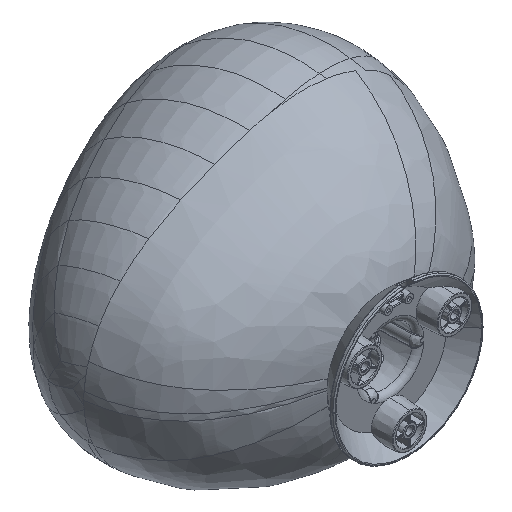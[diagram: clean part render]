
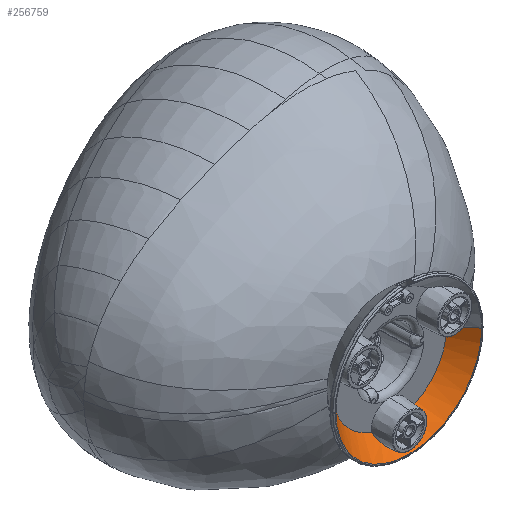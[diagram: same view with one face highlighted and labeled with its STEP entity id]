
A CAD part, isometric view. The second image highlights one B-rep face of the part: STEP entity #256759.
In plain terms, the highlighted conical face has half-angle 40.049 degrees and reference radius 63.239 mm.
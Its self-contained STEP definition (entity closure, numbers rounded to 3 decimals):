
#332 = DIRECTION ( 'NONE',  ( 1., 0., 0. ) ) ;
#465 = CARTESIAN_POINT ( 'NONE',  ( 0., 15.5, 0. ) ) ;
#6809 = AXIS2_PLACEMENT_3D ( 'NONE', #465, #143356, #387798 ) ;
#16500 = ORIENTED_EDGE ( 'NONE', *, *, #37343, .F. ) ;
#20714 = CARTESIAN_POINT ( 'NONE',  ( 0., -1., 0. ) ) ;
#22156 = CARTESIAN_POINT ( 'NONE',  ( -11.129, 6.4, -55.924 ) ) ;
#23276 = EDGE_CURVE ( 'NONE', #256121, #226187, #269764, .T. ) ;
#30754 = CARTESIAN_POINT ( 'NONE',  ( 12.136, 7.317, -54.929 ) ) ;
#37343 = EDGE_CURVE ( 'NONE', #124641, #178456, #313287, .T. ) ;
#57589 = CARTESIAN_POINT ( 'NONE',  ( -63.239, -1., 0. ) ) ;
#72731 = CARTESIAN_POINT ( 'NONE',  ( -63.239, -1., 0. ) ) ;
#72965 = DIRECTION ( 'NONE',  ( 0., -1., 0. ) ) ;
#74127 = ORIENTED_EDGE ( 'NONE', *, *, #23276, .T. ) ;
#86785 = CARTESIAN_POINT ( 'NONE',  ( -5.472, 3.301, -59.374 ) ) ;
#89901 = DIRECTION ( 'NONE',  ( 0., 1., 0. ) ) ;
#95868 = CARTESIAN_POINT ( 'NONE',  ( -16.139, 15.5, -46.657 ) ) ;
#99457 = CARTESIAN_POINT ( 'NONE',  ( -49.37, 15.5, 0. ) ) ;
#101800 = DIRECTION ( 'NONE',  ( 0., 1., 0. ) ) ;
#102199 = CARTESIAN_POINT ( 'NONE',  ( 5.471, 3.301, -59.374 ) ) ;
#105820 = VERTEX_POINT ( 'NONE', #381912 ) ;
#109225 = EDGE_CURVE ( 'NONE', #119316, #256121, #134768, .T. ) ;
#116927 = CARTESIAN_POINT ( 'NONE',  ( -16.139, 15.5, -46.657 ) ) ;
#119316 = VERTEX_POINT ( 'NONE', #116927 ) ;
#119404 = CARTESIAN_POINT ( 'NONE',  ( 0., 2.48, -60.313 ) ) ;
#121373 = CARTESIAN_POINT ( 'NONE',  ( -9.616, 5.259, -57.177 ) ) ;
#121548 = ORIENTED_EDGE ( 'NONE', *, *, #196139, .T. ) ;
#123646 = CARTESIAN_POINT ( 'NONE',  ( -3.898, 2.886, -59.848 ) ) ;
#124641 = VERTEX_POINT ( 'NONE', #119404 ) ;
#126001 = CARTESIAN_POINT ( 'NONE',  ( 8.346, 4.503, -58.018 ) ) ;
#128186 = CARTESIAN_POINT ( 'NONE',  ( -1.144, 2.507, -60.283 ) ) ;
#132816 = CARTESIAN_POINT ( 'NONE',  ( 63.239, -1., 0. ) ) ;
#134768 = CIRCLE ( 'NONE', #392536, 49.37 ) ;
#135000 = CARTESIAN_POINT ( 'NONE',  ( -0.568, 2.48, -60.313 ) ) ;
#136798 = CARTESIAN_POINT ( 'NONE',  ( 8.78, 4.744, -57.749 ) ) ;
#138140 = DIRECTION ( 'NONE',  ( -0.643, -0.765, 0. ) ) ;
#139073 = CARTESIAN_POINT ( 'NONE',  ( 15.303, 12.319, -49.745 ) ) ;
#143356 = DIRECTION ( 'NONE',  ( 0., 1., 0. ) ) ;
#153972 = EDGE_LOOP ( 'NONE', ( #281734, #121548, #16500, #244554, #177960, #74127, #154621 ) ) ;
#154621 = ORIENTED_EDGE ( 'NONE', *, *, #337604, .F. ) ;
#155963 = CARTESIAN_POINT ( 'NONE',  ( -13.768, 9.373, -52.754 ) ) ;
#158317 = CARTESIAN_POINT ( 'NONE',  ( 7.435, 4.053, -58.523 ) ) ;
#162786 = CARTESIAN_POINT ( 'NONE',  ( -2.266, 2.61, -60.164 ) ) ;
#162866 = CARTESIAN_POINT ( 'NONE',  ( 10.765, 6.097, -56.254 ) ) ;
#171389 = CARTESIAN_POINT ( 'NONE',  ( 12.727, 7.969, -54.231 ) ) ;
#177960 = ORIENTED_EDGE ( 'NONE', *, *, #109225, .T. ) ;
#178456 = VERTEX_POINT ( 'NONE', #298354 ) ;
#179026 = DIRECTION ( 'NONE',  ( -1., 0., 0. ) ) ;
#192842 = CARTESIAN_POINT ( 'NONE',  ( -14.425, 10.456, -51.633 ) ) ;
#192923 = CARTESIAN_POINT ( 'NONE',  ( 6.957, 3.844, -58.759 ) ) ;
#195131 = CARTESIAN_POINT ( 'NONE',  ( -10.018, 5.533, -56.873 ) ) ;
#195204 = CARTESIAN_POINT ( 'NONE',  ( 13.752, 9.349, -52.779 ) ) ;
#195219 = DIRECTION ( 'NONE',  ( 0.643, -0.765, 0. ) ) ;
#196139 = EDGE_CURVE ( 'NONE', #105820, #178456, #345501, .T. ) ;
#199725 = CARTESIAN_POINT ( 'NONE',  ( 11.125, 6.396, -55.928 ) ) ;
#208279 = CARTESIAN_POINT ( 'NONE',  ( 0., 2.48, -60.313 ) ) ;
#209226 = AXIS2_PLACEMENT_3D ( 'NONE', #20714, #89901, #373475 ) ;
#226187 = VERTEX_POINT ( 'NONE', #72731 ) ;
#229841 = CARTESIAN_POINT ( 'NONE',  ( 5.976, 3.468, -59.184 ) ) ;
#229856 = LINE ( 'NONE', #132816, #235079 ) ;
#234369 = CARTESIAN_POINT ( 'NONE',  ( 2.247, 2.582, -60.196 ) ) ;
#235079 = VECTOR ( 'NONE', #195219, 1000. ) ;
#236568 = CARTESIAN_POINT ( 'NONE',  ( -15.865, 13.863, -48.208 ) ) ;
#244554 = ORIENTED_EDGE ( 'NONE', *, *, #318407, .F. ) ;
#247062 = CARTESIAN_POINT ( 'NONE',  ( 0., 15.5, 0. ) ) ;
#256121 = VERTEX_POINT ( 'NONE', #99457 ) ;
#256759 = ADVANCED_FACE ( 'NONE', ( #388870 ), #397750, .F. ) ;
#257899 = AXIS2_PLACEMENT_3D ( 'NONE', #455780, #72965, #179026 ) ;
#262099 = CARTESIAN_POINT ( 'NONE',  ( -8.363, 4.487, -58.034 ) ) ;
#264319 = CARTESIAN_POINT ( 'NONE',  ( 63.239, -1., 0. ) ) ;
#264371 = CARTESIAN_POINT ( 'NONE',  ( -5.987, 3.472, -59.18 ) ) ;
#264451 = CARTESIAN_POINT ( 'NONE',  ( 4.432, 3.009, -59.707 ) ) ;
#266728 = CARTESIAN_POINT ( 'NONE',  ( 14.204, 10.068, -52.032 ) ) ;
#268154 = VERTEX_POINT ( 'NONE', #264319 ) ;
#269764 = LINE ( 'NONE', #57589, #286638 ) ;
#270145 = EDGE_CURVE ( 'NONE', #105820, #268154, #229856, .T. ) ;
#277506 = CARTESIAN_POINT ( 'NONE',  ( 15.809, 13.883, -48.205 ) ) ;
#279784 = CARTESIAN_POINT ( 'NONE',  ( 1.132, 2.48, -60.313 ) ) ;
#281734 = ORIENTED_EDGE ( 'NONE', *, *, #270145, .F. ) ;
#286638 = VECTOR ( 'NONE', #138140, 1000. ) ;
#290214 = CIRCLE ( 'NONE', #209226, 63.239 ) ;
#296655 = CARTESIAN_POINT ( 'NONE',  ( -12.734, 7.976, -54.223 ) ) ;
#298354 = CARTESIAN_POINT ( 'NONE',  ( 16.139, 15.5, -46.657 ) ) ;
#298928 = CARTESIAN_POINT ( 'NONE',  ( -4.429, 3.009, -59.708 ) ) ;
#299004 = CARTESIAN_POINT ( 'NONE',  ( 10.008, 5.527, -56.881 ) ) ;
#303548 = CARTESIAN_POINT ( 'NONE',  ( 3.895, 2.885, -59.85 ) ) ;
#312550 = CARTESIAN_POINT ( 'NONE',  ( 0., 2.48, -60.313 ) ) ;
#313287 = B_SPLINE_CURVE_WITH_KNOTS ( 'NONE', 3,
 ( #208279, #279784, #234369, #303548, #264451, #102199, #229841, #192923, #158317, #126001, #136798, #338117, #299004, #162866, #199725, #30754, #171389, #368169, #195204, #266728, #454966, #444189, #139073, #277506, #420396, #405055 ),
 .UNSPECIFIED., .F., .F.,
 ( 4, 2, 2, 2, 2, 2, 2, 2, 2, 2, 2, 2, 4 ),
 ( 0.027, 0.03, 0.032, 0.034, 0.035, 0.037, 0.039, 0.04, 0.044, 0.045, 0.047, 0.05, 0.054 ),
 .UNSPECIFIED. ) ;
#318407 = EDGE_CURVE ( 'NONE', #119316, #124641, #450743, .T. ) ;
#335780 = CARTESIAN_POINT ( 'NONE',  ( -7.46, 4.037, -58.54 ) ) ;
#337604 = EDGE_CURVE ( 'NONE', #268154, #226187, #290214, .T. ) ;
#338117 = CARTESIAN_POINT ( 'NONE',  ( 9.611, 5.256, -57.18 ) ) ;
#345501 = CIRCLE ( 'NONE', #6809, 49.37 ) ;
#368169 = CARTESIAN_POINT ( 'NONE',  ( 13.509, 8.997, -53.147 ) ) ;
#370377 = CARTESIAN_POINT ( 'NONE',  ( -14.218, 10.091, -52.008 ) ) ;
#372653 = CARTESIAN_POINT ( 'NONE',  ( -2.816, 2.686, -60.077 ) ) ;
#373475 = DIRECTION ( 'NONE',  ( 1., 0., 0. ) ) ;
#377179 = CARTESIAN_POINT ( 'NONE',  ( -12.139, 7.32, -54.926 ) ) ;
#381912 = CARTESIAN_POINT ( 'NONE',  ( 49.37, 15.5, 0. ) ) ;
#387798 = DIRECTION ( 'NONE',  ( 1., 0., 0. ) ) ;
#388870 = FACE_OUTER_BOUND ( 'NONE', #153972, .T. ) ;
#392536 = AXIS2_PLACEMENT_3D ( 'NONE', #247062, #101800, #332 ) ;
#397750 = CONICAL_SURFACE ( 'NONE', #257899, 63.239, 0.699 ) ;
#402702 = CARTESIAN_POINT ( 'NONE',  ( -10.773, 6.103, -56.247 ) ) ;
#405055 = CARTESIAN_POINT ( 'NONE',  ( 16.139, 15.5, -46.657 ) ) ;
#420396 = CARTESIAN_POINT ( 'NONE',  ( 16.002, 14.682, -47.432 ) ) ;
#439566 = CARTESIAN_POINT ( 'NONE',  ( -15.372, 12.304, -49.747 ) ) ;
#444111 = CARTESIAN_POINT ( 'NONE',  ( -13.524, 9.018, -53.125 ) ) ;
#444189 = CARTESIAN_POINT ( 'NONE',  ( 14.989, 11.555, -50.512 ) ) ;
#450743 = B_SPLINE_CURVE_WITH_KNOTS ( 'NONE', 3,
 ( #95868, #236568, #439566, #192842, #370377, #155963, #444111, #296655, #377179, #22156, #402702, #195131, #121373, #262099, #335780, #264371, #86785, #298928, #123646, #372653, #162786, #128186, #135000, #312550 ),
 .UNSPECIFIED., .F., .F.,
 ( 4, 2, 2, 2, 2, 2, 2, 2, 2, 2, 2, 4 ),
 ( 0., 0.007, 0.008, 0.01, 0.013, 0.015, 0.017, 0.02, 0.022, 0.024, 0.025, 0.027 ),
 .UNSPECIFIED. ) ;
#454966 = CARTESIAN_POINT ( 'NONE',  ( 14.414, 10.437, -51.652 ) ) ;
#455780 = CARTESIAN_POINT ( 'NONE',  ( 0., -1., 0. ) ) ;
